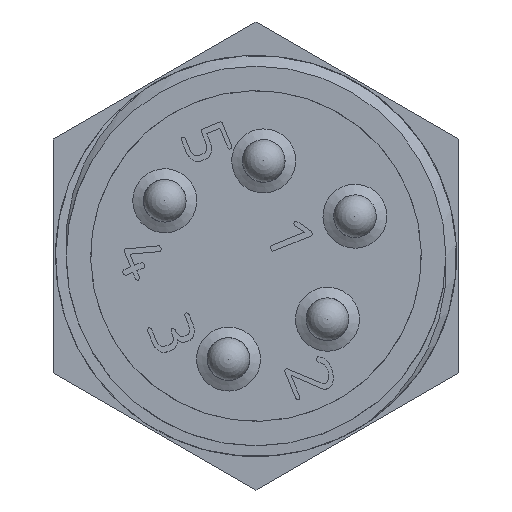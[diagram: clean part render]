
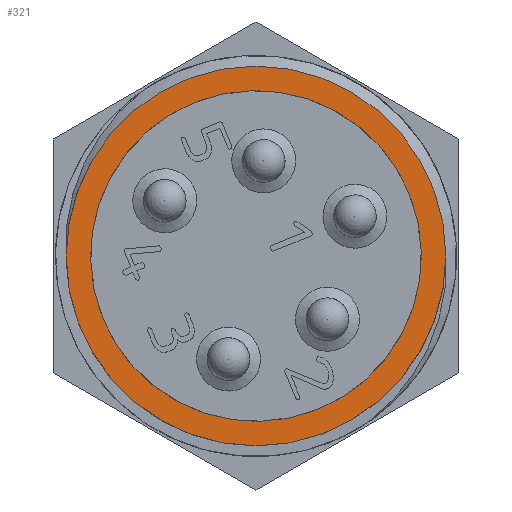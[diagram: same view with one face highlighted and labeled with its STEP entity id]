
A CAD part, left-side view. The second image highlights one B-rep face of the part: STEP entity #321.
In plain terms, the highlighted planar face has unit normal (-1, 0, 0).
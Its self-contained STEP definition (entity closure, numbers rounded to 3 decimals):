
#321=ADVANCED_FACE('',(#6290,#6292),#6294,.T.);
#6290=FACE_BOUND('',#6291,.T.);
#6291=EDGE_LOOP('',(#9862,#9863));
#6292=FACE_BOUND('',#6293,.T.);
#6293=EDGE_LOOP('',(#9864));
#6294=PLANE('',#6295);
#6295=AXIS2_PLACEMENT_3D('',#6296,#6297,#6298);
#6296=CARTESIAN_POINT('',(0.,0.,0.));
#6297=DIRECTION('',(-1.,0.,0.));
#6298=DIRECTION('',(0.,1.,0.));
#9862=ORIENTED_EDGE('',*,*,#11321,.T.);
#9863=ORIENTED_EDGE('',*,*,#11322,.F.);
#9864=ORIENTED_EDGE('',*,*,#11319,.T.);
#11319=EDGE_CURVE('',#11952,#11952,#11953,.T.);
#11321=EDGE_CURVE('',#11956,#11957,#11958,.T.);
#11322=EDGE_CURVE('',#11956,#11957,#11959,.T.);
#11952=VERTEX_POINT('',#14909);
#11953=CIRCLE('',#14910,7.75);
#11956=VERTEX_POINT('',#14919);
#11957=VERTEX_POINT('',#14920);
#11958=CIRCLE('',#14921,8.9);
#11959=CIRCLE('',#14925,8.9);
#14909=CARTESIAN_POINT('',(0.,7.75,0.));
#14910=AXIS2_PLACEMENT_3D('',#14911,#14912,#14913);
#14911=CARTESIAN_POINT('',(0.,0.,0.));
#14912=DIRECTION('',(1.,0.,0.));
#14913=DIRECTION('',(0.,1.,0.));
#14919=CARTESIAN_POINT('',(0.,8.9,0.));
#14920=CARTESIAN_POINT('',(0.,-8.9,0.));
#14921=AXIS2_PLACEMENT_3D('',#14922,#14923,#14924);
#14922=CARTESIAN_POINT('',(0.,0.,0.));
#14923=DIRECTION('',(-1.,0.,0.));
#14924=DIRECTION('',(0.,1.,0.));
#14925=AXIS2_PLACEMENT_3D('',#14926,#14927,#14928);
#14926=CARTESIAN_POINT('',(0.,0.,0.));
#14927=DIRECTION('',(1.,0.,0.));
#14928=DIRECTION('',(0.,1.,0.));
